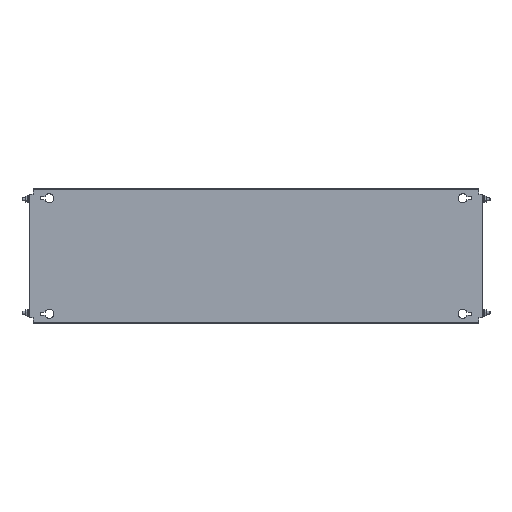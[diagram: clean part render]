
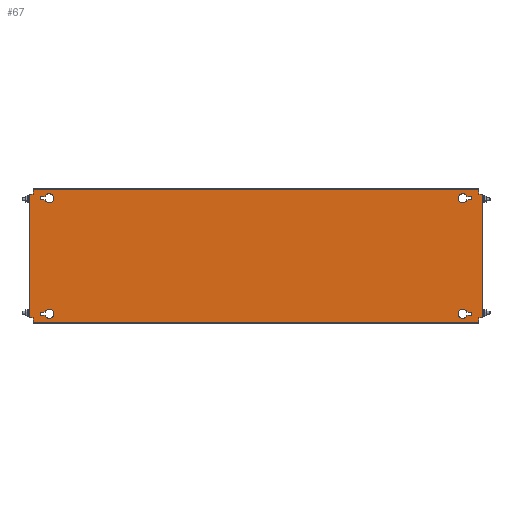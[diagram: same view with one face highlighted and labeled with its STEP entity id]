
A CAD part, top view. The second image highlights one B-rep face of the part: STEP entity #67.
In plain terms, the highlighted planar face has unit normal (0, 0, 1).
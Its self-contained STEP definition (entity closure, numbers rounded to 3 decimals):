
#67 = ADVANCED_FACE('',(#68,#103,#138,#300,#335),#370,.T.);
#68 = FACE_BOUND('',#69,.T.);
#69 = EDGE_LOOP('',(#70,#80,#88,#96));
#70 = ORIENTED_EDGE('',*,*,#71,.T.);
#71 = EDGE_CURVE('',#72,#74,#76,.T.);
#72 = VERTEX_POINT('',#73);
#73 = CARTESIAN_POINT('',(418.393,117.75,2.));
#74 = VERTEX_POINT('',#75);
#75 = CARTESIAN_POINT('',(428.,117.75,2.));
#76 = LINE('',#77,#78);
#77 = CARTESIAN_POINT('',(427.,117.75,2.));
#78 = VECTOR('',#79,1.);
#79 = DIRECTION('',(1.,0.,0.));
#80 = ORIENTED_EDGE('',*,*,#81,.T.);
#81 = EDGE_CURVE('',#74,#82,#84,.T.);
#82 = VERTEX_POINT('',#83);
#83 = CARTESIAN_POINT('',(428.,111.25,2.));
#84 = LINE('',#85,#86);
#85 = CARTESIAN_POINT('',(428.,117.75,2.));
#86 = VECTOR('',#87,1.);
#87 = DIRECTION('',(0.,-1.,0.));
#88 = ORIENTED_EDGE('',*,*,#89,.T.);
#89 = EDGE_CURVE('',#82,#90,#92,.T.);
#90 = VERTEX_POINT('',#91);
#91 = CARTESIAN_POINT('',(418.393,111.25,2.));
#92 = LINE('',#93,#94);
#93 = CARTESIAN_POINT('',(427.,111.25,2.));
#94 = VECTOR('',#95,1.);
#95 = DIRECTION('',(-1.,0.,0.));
#96 = ORIENTED_EDGE('',*,*,#97,.T.);
#97 = EDGE_CURVE('',#90,#72,#98,.T.);
#98 = CIRCLE('',#99,9.);
#99 = AXIS2_PLACEMENT_3D('',#100,#101,#102);
#100 = CARTESIAN_POINT('',(410.,114.5,2.));
#101 = DIRECTION('',(0.,0.,-1.));
#102 = DIRECTION('',(1.,0.,0.));
#103 = FACE_BOUND('',#104,.T.);
#104 = EDGE_LOOP('',(#105,#115,#123,#131));
#105 = ORIENTED_EDGE('',*,*,#106,.T.);
#106 = EDGE_CURVE('',#107,#109,#111,.T.);
#107 = VERTEX_POINT('',#108);
#108 = CARTESIAN_POINT('',(-418.393,-117.75,2.));
#109 = VERTEX_POINT('',#110);
#110 = CARTESIAN_POINT('',(-428.,-117.75,2.));
#111 = LINE('',#112,#113);
#112 = CARTESIAN_POINT('',(-427.,-117.75,2.));
#113 = VECTOR('',#114,1.);
#114 = DIRECTION('',(-1.,0.,0.));
#115 = ORIENTED_EDGE('',*,*,#116,.T.);
#116 = EDGE_CURVE('',#109,#117,#119,.T.);
#117 = VERTEX_POINT('',#118);
#118 = CARTESIAN_POINT('',(-428.,-111.25,2.));
#119 = LINE('',#120,#121);
#120 = CARTESIAN_POINT('',(-428.,-117.75,2.));
#121 = VECTOR('',#122,1.);
#122 = DIRECTION('',(0.,1.,0.));
#123 = ORIENTED_EDGE('',*,*,#124,.T.);
#124 = EDGE_CURVE('',#117,#125,#127,.T.);
#125 = VERTEX_POINT('',#126);
#126 = CARTESIAN_POINT('',(-418.393,-111.25,2.));
#127 = LINE('',#128,#129);
#128 = CARTESIAN_POINT('',(-427.,-111.25,2.));
#129 = VECTOR('',#130,1.);
#130 = DIRECTION('',(1.,-0.,-0.));
#131 = ORIENTED_EDGE('',*,*,#132,.T.);
#132 = EDGE_CURVE('',#125,#107,#133,.T.);
#133 = CIRCLE('',#134,9.);
#134 = AXIS2_PLACEMENT_3D('',#135,#136,#137);
#135 = CARTESIAN_POINT('',(-410.,-114.5,2.));
#136 = DIRECTION('',(0.,0.,-1.));
#137 = DIRECTION('',(-1.,0.,0.));
#138 = FACE_BOUND('',#139,.T.);
#139 = EDGE_LOOP('',(#140,#150,#158,#166,#174,#182,#190,#198,#206,#214,
    #222,#230,#238,#246,#254,#262,#270,#278,#286,#294));
#140 = ORIENTED_EDGE('',*,*,#141,.F.);
#141 = EDGE_CURVE('',#142,#144,#146,.T.);
#142 = VERTEX_POINT('',#143);
#143 = CARTESIAN_POINT('',(-447.4,122.5,2.));
#144 = VERTEX_POINT('',#145);
#145 = CARTESIAN_POINT('',(-442.,122.5,2.));
#146 = LINE('',#147,#148);
#147 = CARTESIAN_POINT('',(-448.,122.5,2.));
#148 = VECTOR('',#149,1.);
#149 = DIRECTION('',(1.,0.,-0.));
#150 = ORIENTED_EDGE('',*,*,#151,.T.);
#151 = EDGE_CURVE('',#142,#152,#154,.T.);
#152 = VERTEX_POINT('',#153);
#153 = CARTESIAN_POINT('',(-450.,122.5,2.));
#154 = LINE('',#155,#156);
#155 = CARTESIAN_POINT('',(-447.4,122.5,2.));
#156 = VECTOR('',#157,1.);
#157 = DIRECTION('',(-1.,0.,0.));
#158 = ORIENTED_EDGE('',*,*,#159,.F.);
#159 = EDGE_CURVE('',#160,#152,#162,.T.);
#160 = VERTEX_POINT('',#161);
#161 = CARTESIAN_POINT('',(-450.,-122.5,2.));
#162 = LINE('',#163,#164);
#163 = CARTESIAN_POINT('',(-450.,-132.5,2.));
#164 = VECTOR('',#165,1.);
#165 = DIRECTION('',(-0.,1.,-0.));
#166 = ORIENTED_EDGE('',*,*,#167,.F.);
#167 = EDGE_CURVE('',#168,#160,#170,.T.);
#168 = VERTEX_POINT('',#169);
#169 = CARTESIAN_POINT('',(-447.4,-122.5,2.));
#170 = LINE('',#171,#172);
#171 = CARTESIAN_POINT('',(-442.,-122.5,2.));
#172 = VECTOR('',#173,1.);
#173 = DIRECTION('',(-1.,-0.,-0.));
#174 = ORIENTED_EDGE('',*,*,#175,.T.);
#175 = EDGE_CURVE('',#168,#176,#178,.T.);
#176 = VERTEX_POINT('',#177);
#177 = CARTESIAN_POINT('',(-442.,-122.5,2.));
#178 = LINE('',#179,#180);
#179 = CARTESIAN_POINT('',(-448.,-122.5,2.));
#180 = VECTOR('',#181,1.);
#181 = DIRECTION('',(1.,0.,-0.));
#182 = ORIENTED_EDGE('',*,*,#183,.T.);
#183 = EDGE_CURVE('',#176,#184,#186,.T.);
#184 = VERTEX_POINT('',#185);
#185 = CARTESIAN_POINT('',(-442.,-131.9,2.));
#186 = LINE('',#187,#188);
#187 = CARTESIAN_POINT('',(-442.,132.5,2.));
#188 = VECTOR('',#189,1.);
#189 = DIRECTION('',(0.,-1.,0.));
#190 = ORIENTED_EDGE('',*,*,#191,.T.);
#191 = EDGE_CURVE('',#184,#192,#194,.T.);
#192 = VERTEX_POINT('',#193);
#193 = CARTESIAN_POINT('',(-442.,-132.5,2.));
#194 = LINE('',#195,#196);
#195 = CARTESIAN_POINT('',(-442.,-131.9,2.));
#196 = VECTOR('',#197,1.);
#197 = DIRECTION('',(-0.,-1.,-0.));
#198 = ORIENTED_EDGE('',*,*,#199,.T.);
#199 = EDGE_CURVE('',#192,#200,#202,.T.);
#200 = VERTEX_POINT('',#201);
#201 = CARTESIAN_POINT('',(442.,-132.5,2.));
#202 = LINE('',#203,#204);
#203 = CARTESIAN_POINT('',(442.,-132.5,2.));
#204 = VECTOR('',#205,1.);
#205 = DIRECTION('',(1.,0.,0.));
#206 = ORIENTED_EDGE('',*,*,#207,.F.);
#207 = EDGE_CURVE('',#208,#200,#210,.T.);
#208 = VERTEX_POINT('',#209);
#209 = CARTESIAN_POINT('',(442.,-131.9,2.));
#210 = LINE('',#211,#212);
#211 = CARTESIAN_POINT('',(442.,-132.5,2.));
#212 = VECTOR('',#213,1.);
#213 = DIRECTION('',(0.,-1.,0.));
#214 = ORIENTED_EDGE('',*,*,#215,.T.);
#215 = EDGE_CURVE('',#208,#216,#218,.T.);
#216 = VERTEX_POINT('',#217);
#217 = CARTESIAN_POINT('',(442.,-122.5,2.));
#218 = LINE('',#219,#220);
#219 = CARTESIAN_POINT('',(442.,132.5,2.));
#220 = VECTOR('',#221,1.);
#221 = DIRECTION('',(-0.,1.,-0.));
#222 = ORIENTED_EDGE('',*,*,#223,.F.);
#223 = EDGE_CURVE('',#224,#216,#226,.T.);
#224 = VERTEX_POINT('',#225);
#225 = CARTESIAN_POINT('',(447.4,-122.5,2.));
#226 = LINE('',#227,#228);
#227 = CARTESIAN_POINT('',(448.,-122.5,2.));
#228 = VECTOR('',#229,1.);
#229 = DIRECTION('',(-1.,0.,-0.));
#230 = ORIENTED_EDGE('',*,*,#231,.T.);
#231 = EDGE_CURVE('',#224,#232,#234,.T.);
#232 = VERTEX_POINT('',#233);
#233 = CARTESIAN_POINT('',(450.,-122.5,2.));
#234 = LINE('',#235,#236);
#235 = CARTESIAN_POINT('',(447.4,-122.5,2.));
#236 = VECTOR('',#237,1.);
#237 = DIRECTION('',(1.,-0.,0.));
#238 = ORIENTED_EDGE('',*,*,#239,.F.);
#239 = EDGE_CURVE('',#240,#232,#242,.T.);
#240 = VERTEX_POINT('',#241);
#241 = CARTESIAN_POINT('',(450.,122.5,2.));
#242 = LINE('',#243,#244);
#243 = CARTESIAN_POINT('',(450.,-132.5,2.));
#244 = VECTOR('',#245,1.);
#245 = DIRECTION('',(-0.,-1.,0.));
#246 = ORIENTED_EDGE('',*,*,#247,.F.);
#247 = EDGE_CURVE('',#248,#240,#250,.T.);
#248 = VERTEX_POINT('',#249);
#249 = CARTESIAN_POINT('',(447.4,122.5,2.));
#250 = LINE('',#251,#252);
#251 = CARTESIAN_POINT('',(-442.,122.5,2.));
#252 = VECTOR('',#253,1.);
#253 = DIRECTION('',(1.,-0.,0.));
#254 = ORIENTED_EDGE('',*,*,#255,.T.);
#255 = EDGE_CURVE('',#248,#256,#258,.T.);
#256 = VERTEX_POINT('',#257);
#257 = CARTESIAN_POINT('',(442.,122.5,2.));
#258 = LINE('',#259,#260);
#259 = CARTESIAN_POINT('',(448.,122.5,2.));
#260 = VECTOR('',#261,1.);
#261 = DIRECTION('',(-1.,0.,-0.));
#262 = ORIENTED_EDGE('',*,*,#263,.T.);
#263 = EDGE_CURVE('',#256,#264,#266,.T.);
#264 = VERTEX_POINT('',#265);
#265 = CARTESIAN_POINT('',(442.,131.9,2.));
#266 = LINE('',#267,#268);
#267 = CARTESIAN_POINT('',(442.,132.5,2.));
#268 = VECTOR('',#269,1.);
#269 = DIRECTION('',(-0.,1.,-0.));
#270 = ORIENTED_EDGE('',*,*,#271,.T.);
#271 = EDGE_CURVE('',#264,#272,#274,.T.);
#272 = VERTEX_POINT('',#273);
#273 = CARTESIAN_POINT('',(442.,132.5,2.));
#274 = LINE('',#275,#276);
#275 = CARTESIAN_POINT('',(442.,131.9,2.));
#276 = VECTOR('',#277,1.);
#277 = DIRECTION('',(-0.,1.,-0.));
#278 = ORIENTED_EDGE('',*,*,#279,.T.);
#279 = EDGE_CURVE('',#272,#280,#282,.T.);
#280 = VERTEX_POINT('',#281);
#281 = CARTESIAN_POINT('',(-442.,132.5,2.));
#282 = LINE('',#283,#284);
#283 = CARTESIAN_POINT('',(-442.,132.5,2.));
#284 = VECTOR('',#285,1.);
#285 = DIRECTION('',(-1.,0.,0.));
#286 = ORIENTED_EDGE('',*,*,#287,.F.);
#287 = EDGE_CURVE('',#288,#280,#290,.T.);
#288 = VERTEX_POINT('',#289);
#289 = CARTESIAN_POINT('',(-442.,131.9,2.));
#290 = LINE('',#291,#292);
#291 = CARTESIAN_POINT('',(-442.,-132.5,2.));
#292 = VECTOR('',#293,1.);
#293 = DIRECTION('',(0.,1.,-0.));
#294 = ORIENTED_EDGE('',*,*,#295,.T.);
#295 = EDGE_CURVE('',#288,#144,#296,.T.);
#296 = LINE('',#297,#298);
#297 = CARTESIAN_POINT('',(-442.,132.5,2.));
#298 = VECTOR('',#299,1.);
#299 = DIRECTION('',(0.,-1.,0.));
#300 = FACE_BOUND('',#301,.T.);
#301 = EDGE_LOOP('',(#302,#312,#320,#328));
#302 = ORIENTED_EDGE('',*,*,#303,.F.);
#303 = EDGE_CURVE('',#304,#306,#308,.T.);
#304 = VERTEX_POINT('',#305);
#305 = CARTESIAN_POINT('',(428.,-111.25,2.));
#306 = VERTEX_POINT('',#307);
#307 = CARTESIAN_POINT('',(418.393,-111.25,2.));
#308 = LINE('',#309,#310);
#309 = CARTESIAN_POINT('',(418.393,-111.25,2.));
#310 = VECTOR('',#311,1.);
#311 = DIRECTION('',(-1.,0.,0.));
#312 = ORIENTED_EDGE('',*,*,#313,.F.);
#313 = EDGE_CURVE('',#314,#304,#316,.T.);
#314 = VERTEX_POINT('',#315);
#315 = CARTESIAN_POINT('',(428.,-117.75,2.));
#316 = LINE('',#317,#318);
#317 = CARTESIAN_POINT('',(428.,-111.25,2.));
#318 = VECTOR('',#319,1.);
#319 = DIRECTION('',(0.,1.,0.));
#320 = ORIENTED_EDGE('',*,*,#321,.F.);
#321 = EDGE_CURVE('',#322,#314,#324,.T.);
#322 = VERTEX_POINT('',#323);
#323 = CARTESIAN_POINT('',(418.393,-117.75,2.));
#324 = LINE('',#325,#326);
#325 = CARTESIAN_POINT('',(427.,-117.75,2.));
#326 = VECTOR('',#327,1.);
#327 = DIRECTION('',(1.,0.,0.));
#328 = ORIENTED_EDGE('',*,*,#329,.F.);
#329 = EDGE_CURVE('',#306,#322,#330,.T.);
#330 = CIRCLE('',#331,9.);
#331 = AXIS2_PLACEMENT_3D('',#332,#333,#334);
#332 = CARTESIAN_POINT('',(410.,-114.5,2.));
#333 = DIRECTION('',(0.,-0.,1.));
#334 = DIRECTION('',(1.,0.,0.));
#335 = FACE_BOUND('',#336,.T.);
#336 = EDGE_LOOP('',(#337,#347,#355,#363));
#337 = ORIENTED_EDGE('',*,*,#338,.F.);
#338 = EDGE_CURVE('',#339,#341,#343,.T.);
#339 = VERTEX_POINT('',#340);
#340 = CARTESIAN_POINT('',(-428.,111.25,2.));
#341 = VERTEX_POINT('',#342);
#342 = CARTESIAN_POINT('',(-418.393,111.25,2.));
#343 = LINE('',#344,#345);
#344 = CARTESIAN_POINT('',(-418.393,111.25,2.));
#345 = VECTOR('',#346,1.);
#346 = DIRECTION('',(1.,0.,0.));
#347 = ORIENTED_EDGE('',*,*,#348,.F.);
#348 = EDGE_CURVE('',#349,#339,#351,.T.);
#349 = VERTEX_POINT('',#350);
#350 = CARTESIAN_POINT('',(-428.,117.75,2.));
#351 = LINE('',#352,#353);
#352 = CARTESIAN_POINT('',(-428.,111.25,2.));
#353 = VECTOR('',#354,1.);
#354 = DIRECTION('',(0.,-1.,0.));
#355 = ORIENTED_EDGE('',*,*,#356,.F.);
#356 = EDGE_CURVE('',#357,#349,#359,.T.);
#357 = VERTEX_POINT('',#358);
#358 = CARTESIAN_POINT('',(-418.393,117.75,2.));
#359 = LINE('',#360,#361);
#360 = CARTESIAN_POINT('',(-427.,117.75,2.));
#361 = VECTOR('',#362,1.);
#362 = DIRECTION('',(-1.,0.,0.));
#363 = ORIENTED_EDGE('',*,*,#364,.F.);
#364 = EDGE_CURVE('',#341,#357,#365,.T.);
#365 = CIRCLE('',#366,9.);
#366 = AXIS2_PLACEMENT_3D('',#367,#368,#369);
#367 = CARTESIAN_POINT('',(-410.,114.5,2.));
#368 = DIRECTION('',(0.,-0.,1.));
#369 = DIRECTION('',(-1.,0.,0.));
#370 = PLANE('',#371);
#371 = AXIS2_PLACEMENT_3D('',#372,#373,#374);
#372 = CARTESIAN_POINT('',(-442.,-132.5,2.));
#373 = DIRECTION('',(-0.,0.,1.));
#374 = DIRECTION('',(1.,0.,0.));
